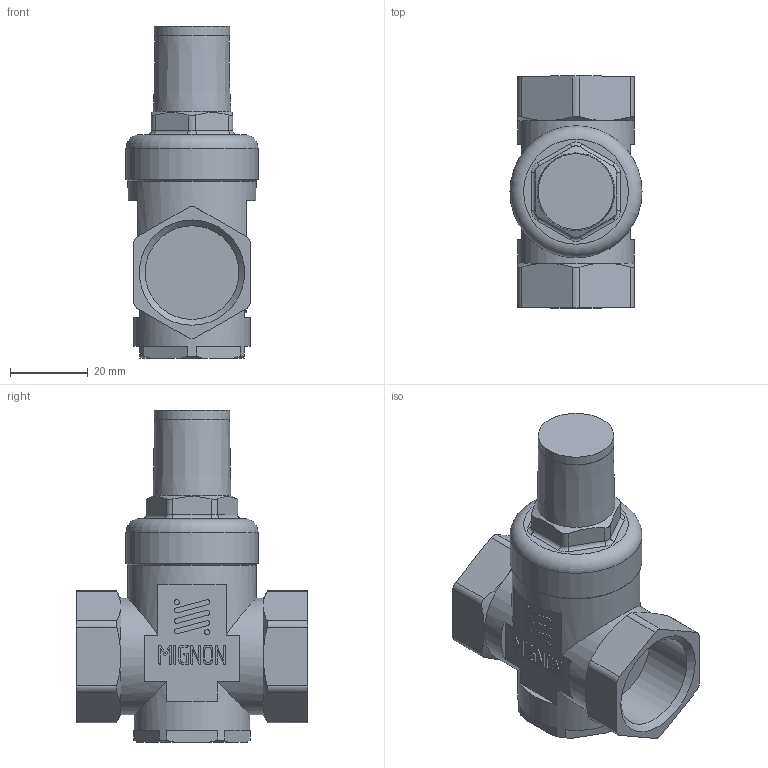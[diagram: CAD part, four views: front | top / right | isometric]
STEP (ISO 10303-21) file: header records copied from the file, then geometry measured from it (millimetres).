
FILE_DESCRIPTION(('STEP AP242'), '1');
FILE_NAME('VT.087.N.0545', '', ('UNSPECIFIED'), ('UNSPECIFIED'), 'C3D Converter', 'C3D Toolkit', '');
FILE_SCHEMA(('AP242_MANAGED_MODEL_BASED_3D_ENGINEERING_MIM_LF { 1 0 10303 442 1 1 4 }'));
Length unit declared in the file: millimetre
Bounding box: 34 x 59.7 x 85.5 mm (x, y, z)
Volume: 63644.5 mm3; surface area: 15134 mm2
Topology: 1 solids, 1 shells, 511 faces, 1406 edges, 932 vertices
Faces by surface type: plane 230, extrusion 210, cylinder 41, cone 23, torus 7
Full cylindrical faces by diameter (mm): 1.3 x2, 19.5 x1, 24.118 x2, 30 x3, 33 x1, 34 x1
Entity records: 18689 total; most frequent: CARTESIAN_POINT 6540, ORIENTED_EDGE 2760, DIRECTION 1838, EDGE_CURVE 1380, VECTOR 990, VERTEX_POINT 920, LINE 780, B_SPLINE_CURVE_WITH_KNOTS 696
